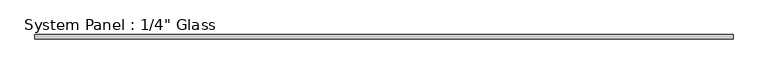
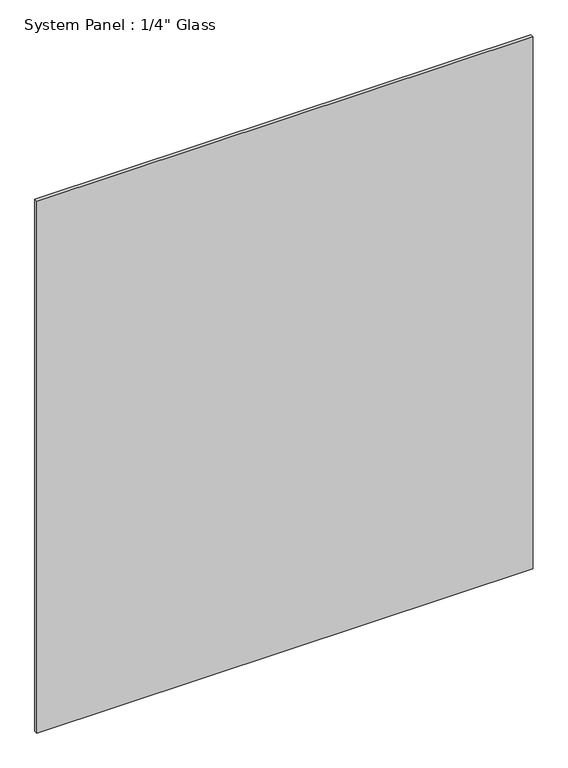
"""IFC4 building model written with IfcOpenShell, lengths in millimetres: plate geometry."""

from ifc_helpers import new_model, si_unit, origin, origin_with_axes, place, context, project, spatial, polyline, outline, extrude, source, transform, mapped, element, save


def plate_15c53d00(model_context):
    return source(origin(), model_context, "Body", "SweptSolid", [
        extrude(outline(polyline([(514.756477, -3.175), (-514.756477, -3.175), (-514.756477, 3.175), (514.756477, 3.175), (514.756477, -3.175)])), origin_with_axes(), (0.0, 0.0, 1.0), 1166.3844027),
    ])


if __name__ == "__main__":
    model = new_model("IFC4")
    model_context = context("Model", 3, world=origin())
    ifc_project = project(units=[si_unit("LENGTHUNIT", "METRE", prefix="MILLI")], contexts=[model_context])
    site = spatial("IfcSite", under=ifc_project)
    building = spatial("IfcBuilding", under=site)
    placement = place(None, origin())
    plate_shape = plate_15c53d00(model_context)
    element("IfcPlate", 1, ObjectType="System Panel : 1/4\" Glass", at=placement, inside=building, context=model_context, shape_type="MappedRepresentation", body=[
        mapped(plate_shape, transform((0.0, 0.0, 0.0), x_axis=(1.0, 0.0, 0.0), y_axis=(0.0, 1.0, 0.0), z_axis=(0.0, 0.0, 1.0))),
    ])
    save(model, "model.ifc")
